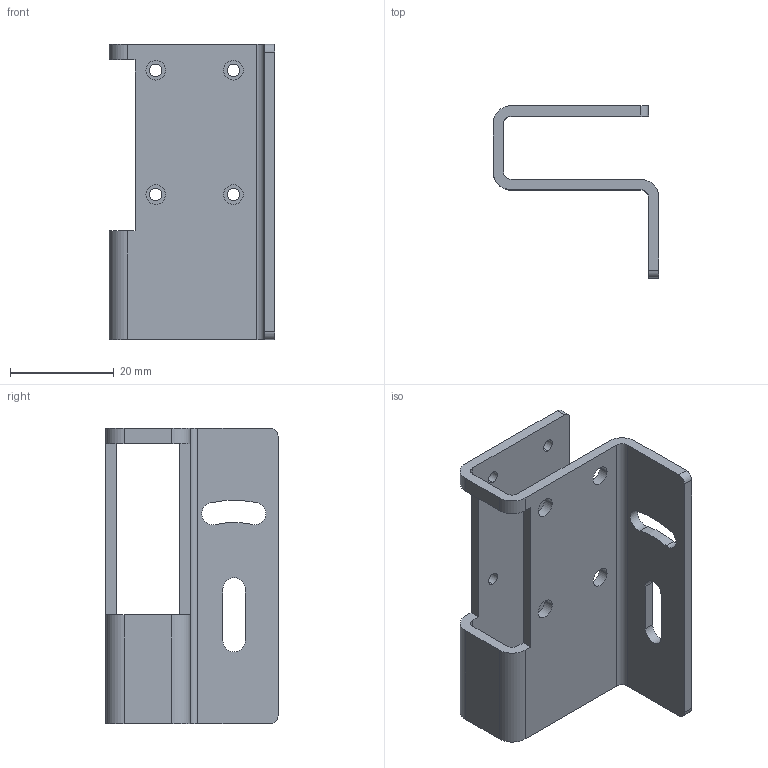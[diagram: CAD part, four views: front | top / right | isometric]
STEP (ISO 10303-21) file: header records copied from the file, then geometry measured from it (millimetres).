
FILE_DESCRIPTION((''),'2;1');
FILE_NAME('15300297 MSP F20-2.stp','2009-06-25T11:50:18',(''),(''),'Mechanical Desktop 2009','Mechanical Desktop 2009',', , ');
FILE_SCHEMA(('CONFIG_CONTROL_DESIGN'));
Length unit declared in the file: millimetre
Products named in the file (2): 04113185; TEIL1
Assembly tree (1 placements, depth 2):
  04113185
    TEIL1
Bounding box: 32 x 33.25 x 57 mm (x, y, z)
Volume: 8363.6 mm3; surface area: 9433.5 mm2
Topology: 1 solids, 1 shells, 56 faces, 168 edges, 112 vertices
Faces by surface type: cylinder 36, plane 20
Entity records: 2077 total; most frequent: DIRECTION 356, CARTESIAN_POINT 338, ORIENTED_EDGE 336, EDGE_CURVE 168, AXIS2_PLACEMENT_3D 130, VERTEX_POINT 112, VECTOR 96, LINE 96
